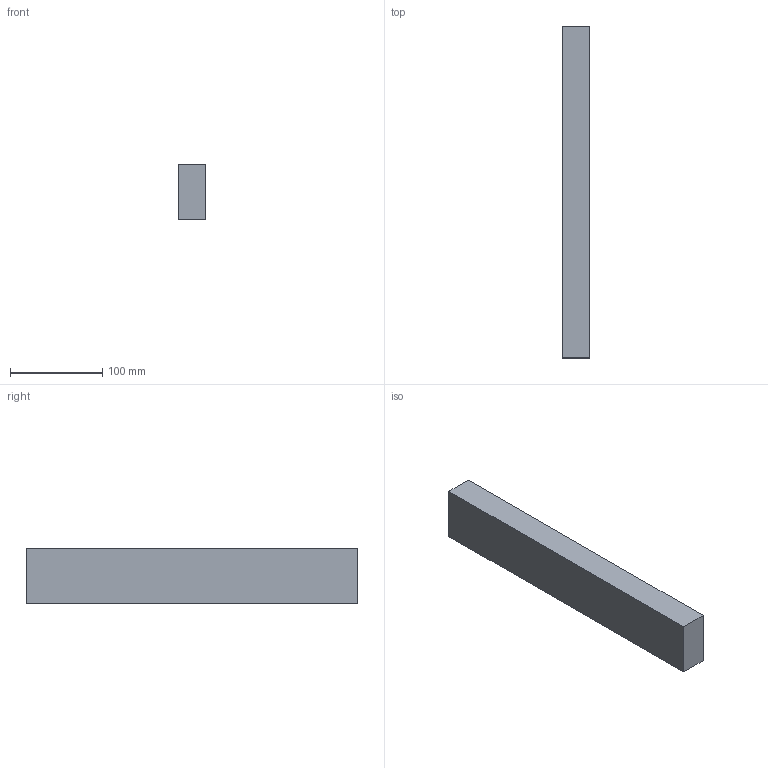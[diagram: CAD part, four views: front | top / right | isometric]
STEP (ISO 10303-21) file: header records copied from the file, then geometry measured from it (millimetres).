
FILE_DESCRIPTION(('Open CASCADE Model'),'2;1');
FILE_NAME('Open CASCADE Shape Model','2026-10-16T18:03:45',('Author'),( 'Open CASCADE'),'Open CASCADE STEP processor 7.8','Open CASCADE 7.8' ,'Unknown');
FILE_SCHEMA(('AUTOMOTIVE_DESIGN { 1 0 10303 214 1 1 1 1 }'));
Length unit declared in the file: millimetre
Products named in the file (1): Open CASCADE STEP translator 7.8 48
Bounding box: 30 x 360 x 60 mm (x, y, z)
Volume: 648000 mm3; surface area: 68400 mm2
Topology: 1 solids, 1 shells, 6 faces, 12 edges, 8 vertices
Faces by surface type: plane 6
Entity records: 322 total; most frequent: CARTESIAN_POINT 51, DIRECTION 50, LINE 36, VECTOR 36, ORIENTED_EDGE 24, PCURVE 24, DEFINITIONAL_REPRESENTATION 24, EDGE_CURVE 12
